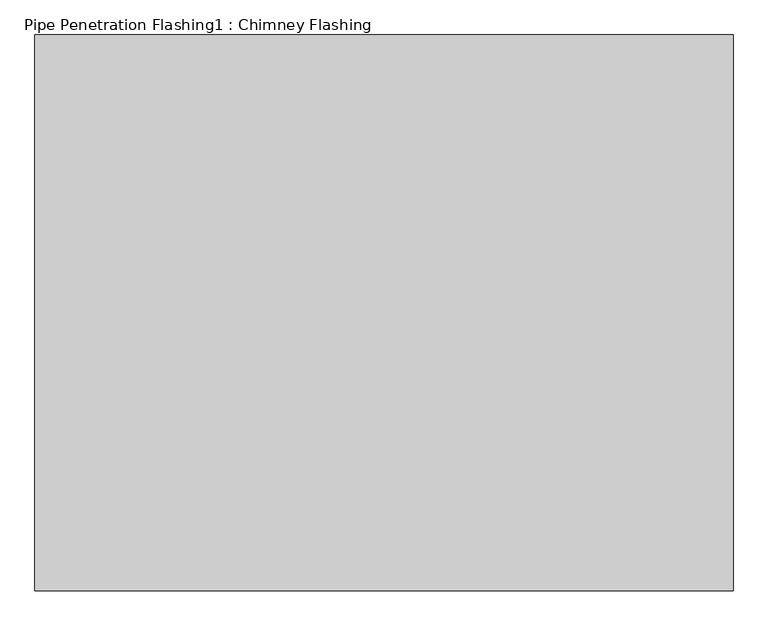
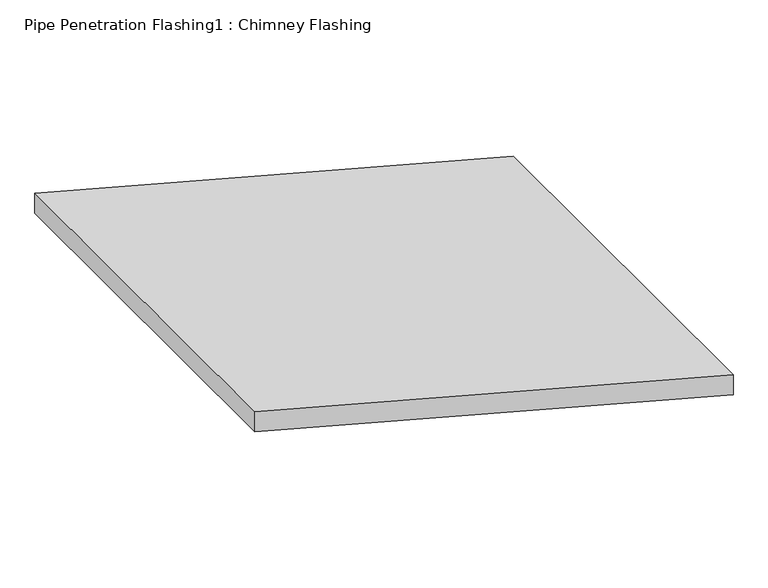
"""IFC4 building model written with IfcOpenShell, lengths in millimetres: proxy geometry, Pipe Penetration Flashing1 : Chimney Flashing."""

import ifcopenshell
import ifcopenshell.guid

model = None  # the IFC model being written
_history = None  # IfcOwnerHistory: only IFC2X3 demands one
_inside = {}  # id of a spatial element -> (the spatial element, [elements in it])
_under = {}  # id of a project, library or spatial element -> (it, [spatial elements below it])
_declared = {}  # id of a project -> (the project, [libraries it declares])
_typed = {}  # id of a type object -> (the type object, [elements of that type])
_made_of = {}  # id of a material, layer set ... -> (it, [elements and type objects made of it])


def new_model(schema):
    """Start an empty IFC model of exactly this schema.

    Asked for "IFC4X3", IfcOpenShell would pick the latest addendum, in which some entities
    have other attributes; the version numbers below select the first issue.
    IFC2X3 requires an IfcOwnerHistory on every rooted entity: one is made here for all.
    """
    global model, _history
    if schema == "IFC4X3":
        model = ifcopenshell.file(schema_version=(4, 3, 0, 0))
    else:
        model = ifcopenshell.file(schema=schema)
    _inside.clear()
    _under.clear()
    _declared.clear()
    _typed.clear()
    _made_of.clear()
    _history = None
    if model.schema == "IFC2X3":
        org = make("IfcOrganization", Name="unknown")
        user = make(
            "IfcPersonAndOrganization",
            ThePerson=make("IfcPerson", FamilyName="unknown"),
            TheOrganization=org,
        )
        app = make(
            "IfcApplication",
            ApplicationDeveloper=org,
            Version="unknown",
            ApplicationFullName="unknown",
            ApplicationIdentifier="unknown",
        )
        _history = make(
            "IfcOwnerHistory",
            OwningUser=user,
            OwningApplication=app,
            ChangeAction="ADDED",
            CreationDate=0,
        )
    return model


def make(cls, **values):
    """One entity of the class cls with the attributes given. An attribute that is None is left unset."""
    return model.create_entity(
        cls, **{name: value for name, value in values.items() if value is not None}
    )


def rooted(cls, **values):
    """An entity with a GlobalId (a new one), such as an element, a storey or a relation."""
    return make(cls, GlobalId=ifcopenshell.guid.new(), OwnerHistory=_history, **values)


def si_unit(unit_type, name, prefix=None):
    """IfcSIUnit, for example si_unit("LENGTHUNIT", "METRE", prefix="MILLI")."""
    return make("IfcSIUnit", UnitType=unit_type, Prefix=prefix, Name=name)


def assignment(units):
    """IfcUnitAssignment: the units of a project."""
    return None if units is None else make("IfcUnitAssignment", Units=units)


def point(xyz):
    """IfcCartesianPoint."""
    return None if xyz is None else make("IfcCartesianPoint", Coordinates=xyz)


def direction(xyz):
    """IfcDirection."""
    return None if xyz is None else make("IfcDirection", DirectionRatios=xyz)


def frame(location, z_axis=None, x_axis=None):
    """IfcAxis2Placement3D, a coordinate frame: its origin and axes. An axis left out is left unset."""
    return make(
        "IfcAxis2Placement3D",
        Location=point(location),
        Axis=direction(z_axis),
        RefDirection=direction(x_axis),
    )


def origin():
    """The frame at (0, 0, 0) with its axes left unset."""
    return frame((0.0, 0.0, 0.0))


def place(relative_to, where):
    """IfcLocalPlacement: puts the frame where relative to a parent placement (None: the world)."""
    return make(
        "IfcLocalPlacement", PlacementRelTo=relative_to, RelativePlacement=where
    )


def context(
    kind, dimensions, precision=None, world=None, true_north=None, identifier=None
):
    """IfcGeometricRepresentationContext, for example the 3D "Model" context."""
    return make(
        "IfcGeometricRepresentationContext",
        ContextIdentifier=identifier,
        ContextType=kind,
        CoordinateSpaceDimension=dimensions,
        Precision=precision,
        WorldCoordinateSystem=world,
        TrueNorth=true_north,
    )


def project(units=None, contexts=None):
    """IfcProject with its units and contexts."""
    return rooted(
        "IfcProject",
        Name="project",
        RepresentationContexts=contexts,
        UnitsInContext=assignment(units),
    )


def spatial(cls, under=None, at=None, **own):
    """A site, building, storey or space (cls), placed at a placement, below another one or the project."""
    s = rooted(cls, ObjectPlacement=at, **own)
    if under is not None:
        _under.setdefault(under.id(), (under, []))[1].append(s)
    return s


def polyline(points):
    """IfcPolyline through the points."""
    return make("IfcPolyline", Points=[point(p) for p in points])


def outline(outer, holes=None, kind="AREA"):
    """IfcArbitraryClosedProfileDef: a profile drawn as a closed curve; with holes, ...WithVoids."""
    if holes is None:
        return make("IfcArbitraryClosedProfileDef", ProfileType=kind, OuterCurve=outer)
    return make(
        "IfcArbitraryProfileDefWithVoids",
        ProfileType=kind,
        OuterCurve=outer,
        InnerCurves=holes,
    )


def extrude(swept, where, along, depth):
    """IfcExtrudedAreaSolid: the profile swept, set in the frame where, extruded along a direction by depth."""
    return make(
        "IfcExtrudedAreaSolid",
        SweptArea=swept,
        Position=where,
        ExtrudedDirection=direction(along),
        Depth=depth,
    )


def shape(context_of_items, identifier, shape_type, items):
    """IfcShapeRepresentation: the items that make up one representation, for example the "Body"."""
    return make(
        "IfcShapeRepresentation",
        ContextOfItems=context_of_items,
        RepresentationIdentifier=identifier,
        RepresentationType=shape_type,
        Items=items,
    )


def source(mapping_origin, context_of_items, identifier, shape_type, items):
    """IfcRepresentationMap: a shape defined once, which mapped items show again and again."""
    return make(
        "IfcRepresentationMap",
        MappingOrigin=mapping_origin,
        MappedRepresentation=shape(context_of_items, identifier, shape_type, items),
    )


def transform(
    local_origin,
    x_axis=None,
    y_axis=None,
    z_axis=None,
    scale=None,
    scale2=None,
    scale3=None,
    uniform=True,
):
    """IfcCartesianTransformationOperator3D, or its non-uniform kind. x_axis, y_axis, z_axis: its Axis1, 2, 3."""
    if uniform:
        return make(
            "IfcCartesianTransformationOperator3D",
            Axis1=direction(x_axis),
            Axis2=direction(y_axis),
            LocalOrigin=point(local_origin),
            Scale=scale,
            Axis3=direction(z_axis),
        )
    return make(
        "IfcCartesianTransformationOperator3DnonUniform",
        Axis1=direction(x_axis),
        Axis2=direction(y_axis),
        LocalOrigin=point(local_origin),
        Scale=scale,
        Axis3=direction(z_axis),
        Scale2=scale2,
        Scale3=scale3,
    )


def mapped(mapping_source, mapping_target):
    """IfcMappedItem: shows the shape of a source again, moved by a transform."""
    return make(
        "IfcMappedItem", MappingSource=mapping_source, MappingTarget=mapping_target
    )


def made_of(thing, what):
    """Note that an element or type object is made of a material, layer set ...; save() writes the relation."""
    if what is not None:
        _made_of.setdefault(what.id(), (what, []))[1].append(thing)
    return thing


def element(
    cls,
    number,
    at=None,
    inside=None,
    cuts=None,
    type_object=None,
    material=None,
    context=None,
    identifier="Body",
    shape_type=None,
    held_by="IfcProductDefinitionShape",
    body=None,
    shapes=None,
    **own,
):
    """One element of the class cls, such as IfcWall. Its Tag is "e" and its number.

    at: its placement. inside: the storey or other place that contains it. cuts: it is an
    opening in that element (IfcRelVoidsElement). A single representation is given by context,
    identifier, shape_type and body (its items); several are given by shapes. held_by: the class
    of the entity that holds the representations. save() writes the other relations.
    """
    e = rooted(cls, Tag="e%d" % number, ObjectPlacement=at, **own)
    if body is not None:
        shapes = [shape(context, identifier, shape_type, body)]
    if shapes is not None:
        e.Representation = make(held_by, Representations=shapes)
    if inside is not None:
        _inside.setdefault(inside.id(), (inside, []))[1].append(e)
    if cuts is not None:
        rooted(
            "IfcRelVoidsElement", RelatingBuildingElement=cuts, RelatedOpeningElement=e
        )
    if type_object is not None:
        _typed.setdefault(type_object.id(), (type_object, []))[1].append(e)
    return made_of(e, material)


def aggregate(whole, parts):
    """IfcRelAggregates: a whole, such as a stair, and the parts it consists of."""
    return rooted("IfcRelAggregates", RelatingObject=whole, RelatedObjects=parts)


def save(model, path):
    """Write the relations noted so far, then the file.

    IfcRelAggregates (storeys below a building ...), IfcRelContainedInSpatialStructure (elements
    in a storey), IfcRelDefinesByType, IfcRelAssociatesMaterial and IfcRelDeclares: one each for
    every whole, place, type object, material and project.
    """
    for whole, parts in _under.values():
        aggregate(whole, parts)
    for where, things in _inside.values():
        rooted(
            "IfcRelContainedInSpatialStructure",
            RelatedElements=things,
            RelatingStructure=where,
        )
    for kind, things in _typed.values():
        rooted("IfcRelDefinesByType", RelatedObjects=things, RelatingType=kind)
    for what, things in _made_of.values():
        rooted("IfcRelAssociatesMaterial", RelatedObjects=things, RelatingMaterial=what)
    for by, libraries in _declared.values():
        rooted("IfcRelDeclares", RelatingContext=by, RelatedDefinitions=libraries)
    model.write(path)


def pipe_penetration_flashing1_chimney_flashing_11f8b881(model_context):
    return source(origin(), model_context, "Body", "SweptSolid", [
        extrude(outline(polyline([(5918.6213183, -11090.9594054), (5965.2087464, -11090.9594054), (6247.9654108, -12146.2216431), (6201.3779827, -12146.2216431), (5918.6213183, -11090.9594054)])), frame((0.0, -18521.178429, 0.0), z_axis=(0.0, 1.0, 0.0), x_axis=(0.0, 0.0, 1.0)), (0.0, 0.0, 1.0), 840.0),
    ])


if __name__ == "__main__":
    model = new_model("IFC4")
    model_context = context("Model", 3, world=origin())
    ifc_project = project(units=[si_unit("LENGTHUNIT", "METRE", prefix="MILLI")], contexts=[model_context])
    site = spatial("IfcSite", under=ifc_project)
    building = spatial("IfcBuilding", under=site)
    placement = place(None, origin())
    pipe_penetration_flashing1_chimney_flashing_shape = pipe_penetration_flashing1_chimney_flashing_11f8b881(model_context)
    element("IfcBuildingElementProxy", 1, Name="Pipe Penetration Flashing1 : Chimney Flashing", ObjectType="Pipe Penetration Flashing1 : Chimney Flashing", at=placement, inside=building, context=model_context, shape_type="MappedRepresentation", body=[
        mapped(pipe_penetration_flashing1_chimney_flashing_shape, transform((0.0, 0.0, 0.0), x_axis=(1.0, 0.0, 0.0), y_axis=(0.0, 1.0, 0.0), z_axis=(0.0, 0.0, 1.0))),
    ])
    save(model, "model.ifc")
